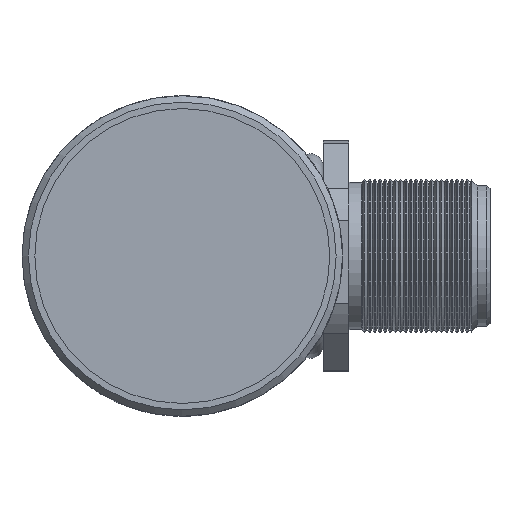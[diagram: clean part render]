
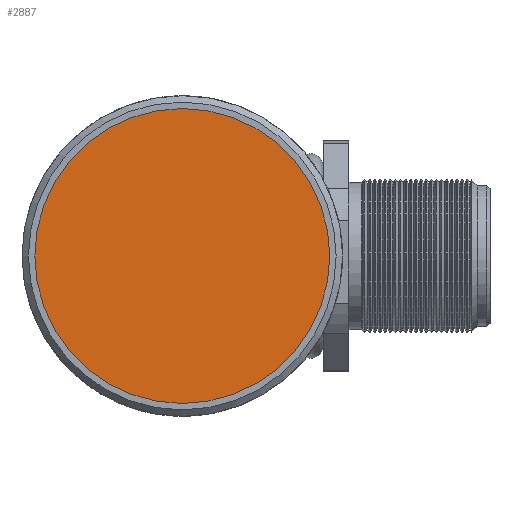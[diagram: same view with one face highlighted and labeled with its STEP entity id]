
A CAD part, left-side view. The second image highlights one B-rep face of the part: STEP entity #2887.
In plain terms, the highlighted planar face has unit normal (-1, 0, 0).
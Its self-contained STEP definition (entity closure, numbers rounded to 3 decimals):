
#385=PLANE('',#3116);
#756=VERTEX_POINT('',#4166);
#1002=CIRCLE('',#3115,11.5);
#1169=EDGE_CURVE('',#756,#756,#1002,.T.);
#1535=ORIENTED_EDGE('',*,*,#1169,.T.);
#2242=EDGE_LOOP('',(#1535));
#2569=FACE_BOUND('',#2242,.T.);
#2887=ADVANCED_FACE('',(#2569),#385,.F.);
#3115=AXIS2_PLACEMENT_3D('',#4165,#3446,#3447);
#3116=AXIS2_PLACEMENT_3D('',#4167,#3448,$);
#3446=DIRECTION('',(-1.,0.,0.));
#3447=DIRECTION('',(0.,0.,-11.5));
#3448=DIRECTION('',(1.,0.,0.));
#4165=CARTESIAN_POINT('',(-34.,0.,0.));
#4166=CARTESIAN_POINT('',(-34.,0.,-11.5));
#4167=CARTESIAN_POINT('',(-34.,0.,0.));
